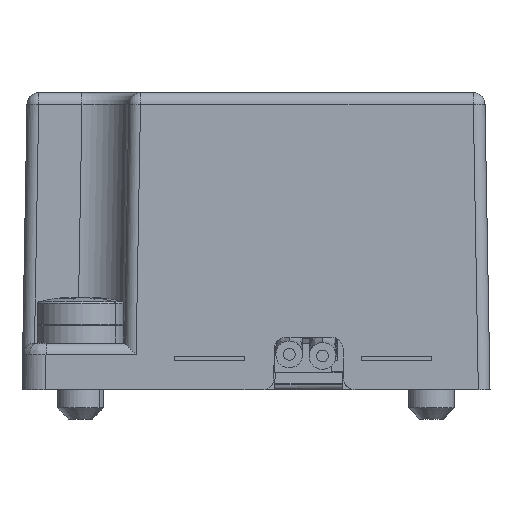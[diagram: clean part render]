
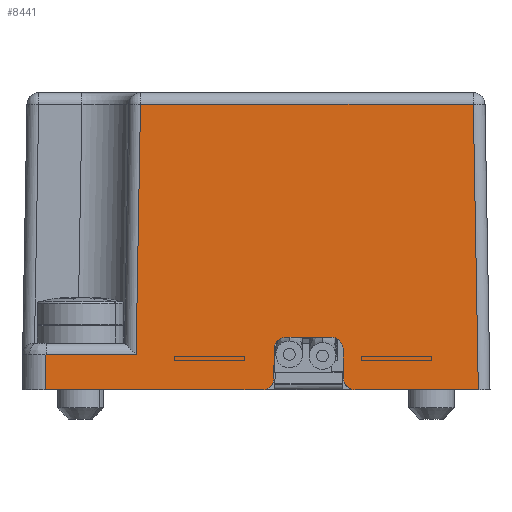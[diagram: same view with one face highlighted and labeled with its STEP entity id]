
A CAD part, left-side view. The second image highlights one B-rep face of the part: STEP entity #8441.
In plain terms, the highlighted planar face has unit normal (-1, 0, 0.018).
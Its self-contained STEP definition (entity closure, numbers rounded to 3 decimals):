
#7717 = CARTESIAN_POINT ( 'NONE',  ( -94.939, 18.439, 3.517 ) ) ;
#8173 = EDGE_CURVE ( 'NONE', #8174, #8201, #18732, .T. ) ;
#8174 = VERTEX_POINT ( 'NONE', #18728 ) ;
#8201 = VERTEX_POINT ( 'NONE', #18785 ) ;
#8364 = ORIENTED_EDGE ( 'NONE', *, *, #8412, .T. ) ;
#8365 = ORIENTED_EDGE ( 'NONE', *, *, #8366, .T. ) ;
#8366 = EDGE_CURVE ( 'NONE', #8201, #8367, #19062, .T. ) ;
#8367 = VERTEX_POINT ( 'NONE', #19058 ) ;
#8368 = ORIENTED_EDGE ( 'NONE', *, *, #8369, .T. ) ;
#8369 = EDGE_CURVE ( 'NONE', #8367, #8444, #19057, .T. ) ;
#8412 = EDGE_CURVE ( 'NONE', #10033, #8413, #19114, .T. ) ;
#8413 = VERTEX_POINT ( 'NONE', #19116 ) ;
#8414 = ORIENTED_EDGE ( 'NONE', *, *, #8415, .F. ) ;
#8415 = EDGE_CURVE ( 'NONE', #8416, #8413, #19115, .T. ) ;
#8416 = VERTEX_POINT ( 'NONE', #19146 ) ;
#8425 = EDGE_LOOP ( 'NONE', ( #8442, #8446, #8449, #8452, #8364, #8414, #8426, #8429, #8432, #8435, #8438, #8440, #8365, #8368 ) ) ;
#8426 = ORIENTED_EDGE ( 'NONE', *, *, #8427, .T. ) ;
#8427 = EDGE_CURVE ( 'NONE', #8416, #8428, #18301, .T. ) ;
#8428 = VERTEX_POINT ( 'NONE', #19170 ) ;
#8429 = ORIENTED_EDGE ( 'NONE', *, *, #8430, .F. ) ;
#8430 = EDGE_CURVE ( 'NONE', #8431, #8428, #19169, .T. ) ;
#8431 = VERTEX_POINT ( 'NONE', #19165 ) ;
#8432 = ORIENTED_EDGE ( 'NONE', *, *, #8433, .T. ) ;
#8433 = EDGE_CURVE ( 'NONE', #8431, #8434, #19162, .T. ) ;
#8434 = VERTEX_POINT ( 'NONE', #19164 ) ;
#8435 = ORIENTED_EDGE ( 'NONE', *, *, #8436, .F. ) ;
#8436 = EDGE_CURVE ( 'NONE', #8437, #8434, #19163, .T. ) ;
#8437 = VERTEX_POINT ( 'NONE', #19154 ) ;
#8438 = ORIENTED_EDGE ( 'NONE', *, *, #8439, .T. ) ;
#8439 = EDGE_CURVE ( 'NONE', #8437, #8174, #19193, .T. ) ;
#8440 = ORIENTED_EDGE ( 'NONE', *, *, #8173, .T. ) ;
#8441 = ADVANCED_FACE ( 'NONE', ( #19195 ), #19194, .T. ) ;
#8442 = ORIENTED_EDGE ( 'NONE', *, *, #8443, .T. ) ;
#8443 = EDGE_CURVE ( 'NONE', #8444, #8445, #19184, .T. ) ;
#8444 = VERTEX_POINT ( 'NONE', #19180 ) ;
#8445 = VERTEX_POINT ( 'NONE', #19179 ) ;
#8446 = ORIENTED_EDGE ( 'NONE', *, *, #8447, .T. ) ;
#8447 = EDGE_CURVE ( 'NONE', #8445, #8448, #19178, .T. ) ;
#8448 = VERTEX_POINT ( 'NONE', #19174 ) ;
#8449 = ORIENTED_EDGE ( 'NONE', *, *, #8450, .T. ) ;
#8450 = EDGE_CURVE ( 'NONE', #8448, #8451, #19228, .T. ) ;
#8451 = VERTEX_POINT ( 'NONE', #19224 ) ;
#8452 = ORIENTED_EDGE ( 'NONE', *, *, #8453, .T. ) ;
#8453 = EDGE_CURVE ( 'NONE', #8451, #10033, #19223, .T. ) ;
#10033 = VERTEX_POINT ( 'NONE', #12252 ) ;
#12252 = CARTESIAN_POINT ( 'NONE',  ( -95., 19.483, 0. ) ) ;
#18301 =( BOUNDED_CURVE ( )  B_SPLINE_CURVE ( 3, ( #7717, #19173, #19172, #19171 ),
 .UNSPECIFIED., .F., .F. ) 
 B_SPLINE_CURVE_WITH_KNOTS ( ( 4, 4 ),
 ( 1.588, 3.142 ),
 .UNSPECIFIED. ) 
 CURVE ( )  GEOMETRIC_REPRESENTATION_ITEM ( )  RATIONAL_B_SPLINE_CURVE ( ( 1., 0.809, 0.809, 1. ) ) 
 REPRESENTATION_ITEM ( '' )  );
#18728 = CARTESIAN_POINT ( 'NONE',  ( -95., 11.517, 0. ) ) ;
#18729 = DIRECTION ( 'NONE',  ( 0., -1., 0. ) ) ;
#18730 = VECTOR ( 'NONE', #18729, 1000. ) ;
#18731 = CARTESIAN_POINT ( 'NONE',  ( -95., 0., 0. ) ) ;
#18732 = LINE ( 'NONE', #18731, #18730 ) ;
#18785 = CARTESIAN_POINT ( 'NONE',  ( -95., 1., 0. ) ) ;
#19054 = DIRECTION ( 'NONE',  ( 0., 1., 0. ) ) ;
#19055 = VECTOR ( 'NONE', #19054, 1000. ) ;
#19056 = CARTESIAN_POINT ( 'NONE',  ( -94.574, 30.857, 24.417 ) ) ;
#19057 = LINE ( 'NONE', #19056, #19055 ) ;
#19058 = CARTESIAN_POINT ( 'NONE',  ( -94.574, 1.426, 24.417 ) ) ;
#19059 = DIRECTION ( 'NONE',  ( 0.017, 0.017, 1. ) ) ;
#19060 = VECTOR ( 'NONE', #19059, 1000. ) ;
#19061 = CARTESIAN_POINT ( 'NONE',  ( -95., 1., -0.017 ) ) ;
#19062 = LINE ( 'NONE', #19061, #19060 ) ;
#19114 =( BOUNDED_CURVE ( )  B_SPLINE_CURVE ( 3, ( #19153, #19152, #19151, #19150 ),
 .UNSPECIFIED., .F., .T. ) 
 B_SPLINE_CURVE_WITH_KNOTS ( ( 4, 4 ),
 ( 3.142, 4.695 ),
 .UNSPECIFIED. ) 
 CURVE ( )  GEOMETRIC_REPRESENTATION_ITEM ( )  RATIONAL_B_SPLINE_CURVE ( ( 1., 0.809, 0.809, 1. ) ) 
 REPRESENTATION_ITEM ( '' )  );
#19115 = LINE ( 'NONE', #19149, #19148 ) ;
#19116 = CARTESIAN_POINT ( 'NONE',  ( -94.983, 18.483, 0.983 ) ) ;
#19146 = CARTESIAN_POINT ( 'NONE',  ( -94.939, 18.439, 3.517 ) ) ;
#19147 = DIRECTION ( 'NONE',  ( -0.017, 0.017, -1. ) ) ;
#19148 = VECTOR ( 'NONE', #19147, 1000. ) ;
#19149 = CARTESIAN_POINT ( 'NONE',  ( -94.971, 18.471, 1.657 ) ) ;
#19150 = CARTESIAN_POINT ( 'NONE',  ( -94.983, 18.483, 0.983 ) ) ;
#19151 = CARTESIAN_POINT ( 'NONE',  ( -94.993, 18.493, 0.405 ) ) ;
#19152 = CARTESIAN_POINT ( 'NONE',  ( -95., 18.905, 0. ) ) ;
#19153 = CARTESIAN_POINT ( 'NONE',  ( -95., 19.483, 0. ) ) ;
#19154 = CARTESIAN_POINT ( 'NONE',  ( -94.983, 12.517, 0.983 ) ) ;
#19155 = DIRECTION ( 'NONE',  ( 0.017, 0.017, 1. ) ) ;
#19156 = VECTOR ( 'NONE', #19155, 1000. ) ;
#19157 = CARTESIAN_POINT ( 'NONE',  ( -94.971, 12.529, 1.657 ) ) ;
#19158 = CARTESIAN_POINT ( 'NONE',  ( -94.939, 12.561, 3.517 ) ) ;
#19159 = CARTESIAN_POINT ( 'NONE',  ( -94.929, 12.571, 4.095 ) ) ;
#19160 = CARTESIAN_POINT ( 'NONE',  ( -94.921, 12.984, 4.5 ) ) ;
#19161 = CARTESIAN_POINT ( 'NONE',  ( -94.921, 13.561, 4.5 ) ) ;
#19162 =( BOUNDED_CURVE ( )  B_SPLINE_CURVE ( 3, ( #19161, #19160, #19159, #19158 ),
 .UNSPECIFIED., .F., .T. ) 
 B_SPLINE_CURVE_WITH_KNOTS ( ( 4, 4 ),
 ( 3.142, 4.695 ),
 .UNSPECIFIED. ) 
 CURVE ( )  GEOMETRIC_REPRESENTATION_ITEM ( )  RATIONAL_B_SPLINE_CURVE ( ( 1., 0.809, 0.809, 1. ) ) 
 REPRESENTATION_ITEM ( '' )  );
#19163 = LINE ( 'NONE', #19157, #19156 ) ;
#19164 = CARTESIAN_POINT ( 'NONE',  ( -94.939, 12.561, 3.517 ) ) ;
#19165 = CARTESIAN_POINT ( 'NONE',  ( -94.921, 13.561, 4.5 ) ) ;
#19166 = DIRECTION ( 'NONE',  ( 0., 1., 0. ) ) ;
#19167 = VECTOR ( 'NONE', #19166, 1000. ) ;
#19168 = CARTESIAN_POINT ( 'NONE',  ( -94.921, 18.5, 4.5 ) ) ;
#19169 = LINE ( 'NONE', #19168, #19167 ) ;
#19170 = CARTESIAN_POINT ( 'NONE',  ( -94.921, 17.439, 4.5 ) ) ;
#19171 = CARTESIAN_POINT ( 'NONE',  ( -94.921, 17.439, 4.5 ) ) ;
#19172 = CARTESIAN_POINT ( 'NONE',  ( -94.921, 18.016, 4.5 ) ) ;
#19173 = CARTESIAN_POINT ( 'NONE',  ( -94.929, 18.429, 4.095 ) ) ;
#19174 = CARTESIAN_POINT ( 'NONE',  ( -94.947, 37.948, 3.017 ) ) ;
#19175 = DIRECTION ( 'NONE',  ( 0., 1., 0. ) ) ;
#19176 = VECTOR ( 'NONE', #19175, 1000. ) ;
#19177 = CARTESIAN_POINT ( 'NONE',  ( -94.947, 37.93, 3.017 ) ) ;
#19178 = LINE ( 'NONE', #19177, #19176 ) ;
#19179 = CARTESIAN_POINT ( 'NONE',  ( -94.947, 30.247, 3.017 ) ) ;
#19180 = CARTESIAN_POINT ( 'NONE',  ( -94.574, 29.874, 24.417 ) ) ;
#19181 = DIRECTION ( 'NONE',  ( -0.017, 0.017, -1. ) ) ;
#19182 = VECTOR ( 'NONE', #19181, 1000. ) ;
#19183 = CARTESIAN_POINT ( 'NONE',  ( -94.991, 30.291, 0.529 ) ) ;
#19184 = LINE ( 'NONE', #19183, #19182 ) ;
#19185 = DIRECTION ( 'NONE',  ( 0.017, 0., 1. ) ) ;
#19186 = DIRECTION ( 'NONE',  ( -1., 0., 0.017 ) ) ;
#19187 = CARTESIAN_POINT ( 'NONE',  ( -95., 0., 0. ) ) ;
#19188 = AXIS2_PLACEMENT_3D ( 'NONE', #19187, #19186, #19185 ) ;
#19189 = CARTESIAN_POINT ( 'NONE',  ( -95., 11.517, 0. ) ) ;
#19190 = CARTESIAN_POINT ( 'NONE',  ( -95., 12.095, 0. ) ) ;
#19191 = CARTESIAN_POINT ( 'NONE',  ( -94.993, 12.507, 0.405 ) ) ;
#19192 = CARTESIAN_POINT ( 'NONE',  ( -94.983, 12.517, 0.983 ) ) ;
#19193 =( BOUNDED_CURVE ( )  B_SPLINE_CURVE ( 3, ( #19192, #19191, #19190, #19189 ),
 .UNSPECIFIED., .F., .T. ) 
 B_SPLINE_CURVE_WITH_KNOTS ( ( 4, 4 ),
 ( 1.588, 3.142 ),
 .UNSPECIFIED. ) 
 CURVE ( )  GEOMETRIC_REPRESENTATION_ITEM ( )  RATIONAL_B_SPLINE_CURVE ( ( 1., 0.809, 0.809, 1. ) ) 
 REPRESENTATION_ITEM ( '' )  );
#19194 = PLANE ( 'NONE',  #19188 ) ;
#19195 = FACE_OUTER_BOUND ( 'NONE', #8425, .T. ) ;
#19220 = DIRECTION ( 'NONE',  ( 0., -1., 0. ) ) ;
#19221 = VECTOR ( 'NONE', #19220, 1000. ) ;
#19222 = CARTESIAN_POINT ( 'NONE',  ( -95., 0., 0. ) ) ;
#19223 = LINE ( 'NONE', #19222, #19221 ) ;
#19224 = CARTESIAN_POINT ( 'NONE',  ( -95., 38., 0. ) ) ;
#19225 = DIRECTION ( 'NONE',  ( -0.017, 0.017, -1. ) ) ;
#19226 = VECTOR ( 'NONE', #19225, 1000. ) ;
#19227 = CARTESIAN_POINT ( 'NONE',  ( -94.988, 37.989, 0.663 ) ) ;
#19228 = LINE ( 'NONE', #19227, #19226 ) ;
